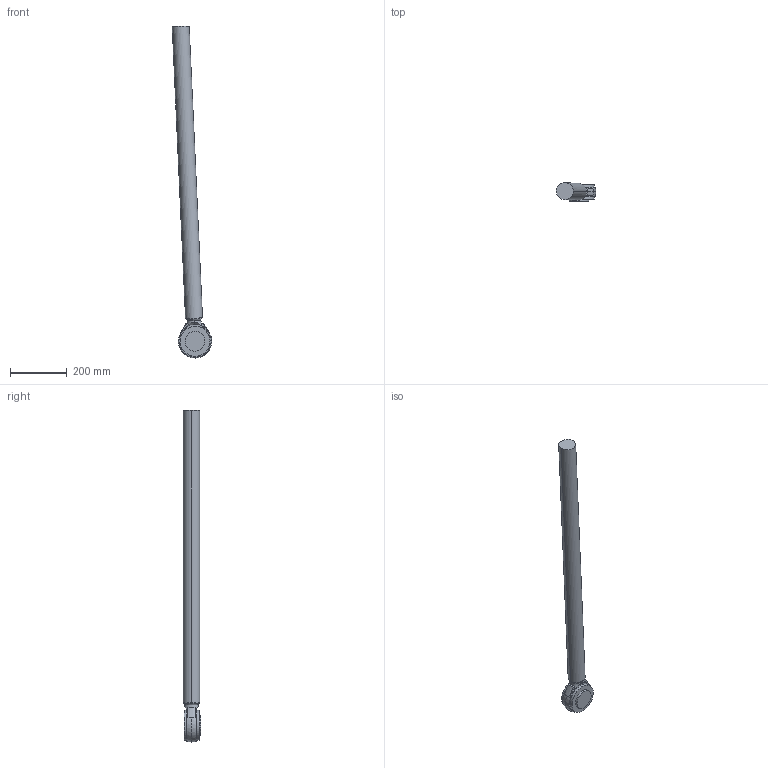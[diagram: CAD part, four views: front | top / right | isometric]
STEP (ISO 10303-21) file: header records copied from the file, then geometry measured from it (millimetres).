
FILE_DESCRIPTION (( 'STEP AP203' ), '1' );
FILE_NAME ('IRB8700-MH3_800-350_IRC5_rev00_BAL-B-RIGHT_CAD.STEP', '2015-06-04T08:21:40', ( 'ABB' ), ( 'ABB' ), 'SwSTEP 2.0', 'SolidWorks 2014', '' );
FILE_SCHEMA (( 'CONFIG_CONTROL_DESIGN' ));
Length unit declared in the file: millimetre
Products named in the file (1): IRB8700-MH3_800-350_IRC5_rev00_BAL-B-RIGHT_CAD
Bounding box: 139.95 x 63.5 x 1173.35 mm (x, y, z)
Volume: 3514802.6 mm3; surface area: 242837.6 mm2
Topology: 1 solids, 1 shells, 43 faces, 99 edges, 63 vertices
Faces by surface type: plane 16, cylinder 14, cone 9, sphere 2, torus 2
Entity records: 1480 total; most frequent: CARTESIAN_POINT 430, DIRECTION 213, ORIENTED_EDGE 198, EDGE_CURVE 99, AXIS2_PLACEMENT_3D 94, VERTEX_POINT 63, CIRCLE 50, EDGE_LOOP 48
